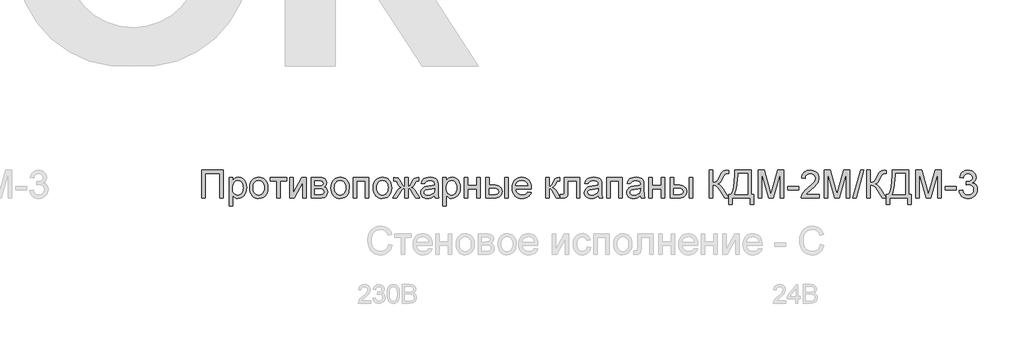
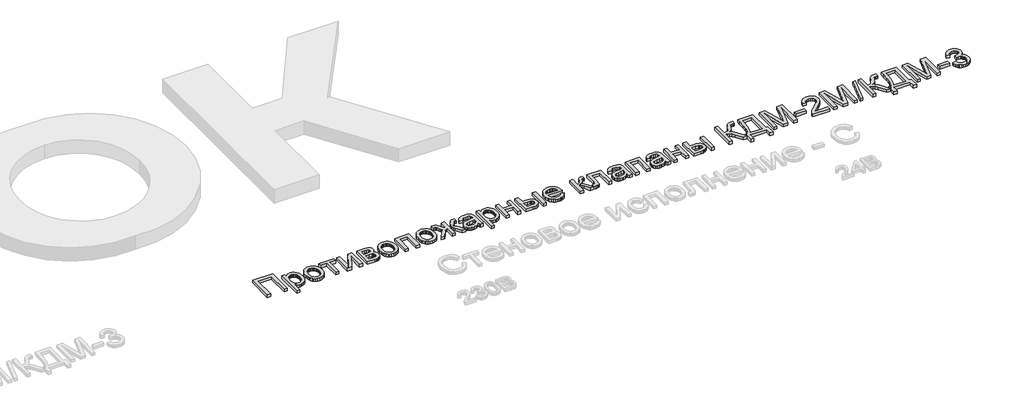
# One storey, part 22 of 23: 1 proxy.
"""IFC4 building model written with IfcOpenShell, lengths in millimetres."""

from ifc_helpers import new_model, si_unit, origin, origin_with_axes, place, context, project, spatial, polyline, outline, extrude, element, save

model = new_model("IFC4")

# Units and contexts
model_context = context("Model", 3, world=origin())
ifc_project = project(units=[si_unit("LENGTHUNIT", "METRE", prefix="MILLI")], contexts=[model_context])

# Site, building, storey
site = spatial("IfcSite", under=ifc_project)
building = spatial("IfcBuilding", under=site)
storey = spatial("IfcBuildingStorey", under=building, Name="Этаж 01", Elevation=0.0)

# Proxy
placement = place(None, origin())
element("IfcBuildingElementProxy", 1, Name="450 мм Arial", ObjectType="450 мм Arial", at=placement, inside=storey, context=model_context, shape_type="SweptSolid", body=[
    extrude(outline(polyline([(15947.7209967, -1162.9519857), (16299.0148583, -1162.9519857), (16299.0148583, -1612.6081285), (16242.8078404, -1612.6081285), (16242.8078404, -1219.1590035), (16003.9280146, -1219.1590035), (16003.9280146, -1612.6081285), (15947.7209967, -1612.6081285), (15947.7209967, -1162.9519857)])), origin_with_axes(), (0.0, 0.0, 1.0), 50.0),
    extrude(outline(polyline([(16390.3512623, -1739.0739187), (16390.3512623, -1282.3918986), (16446.5582802, -1282.3918986), (16446.5582802, -1337.5011231), (16464.8914286, -1310.3170161), (16485.4201636, -1290.8997968), (16509.3520579, -1279.2494652), (16537.8946842, -1275.3660214), (16575.9057778, -1280.8000983), (16609.1414705, -1297.1023291), (16636.2020757, -1323.2846997), (16655.6879071, -1358.3591962), (16667.4617405, -1399.7734491), (16671.3863516, -1444.9750889), (16666.954011, -1493.0447138), (16653.6569895, -1536.0370446), (16631.9206818, -1571.7702171), (16602.1704829, -1598.062367), (16567.5213813, -1614.241096), (16531.0883656, -1619.6340057), (16505.2490554, -1616.0250102), (16482.1816733, -1605.1980236), (16462.435116, -1588.8546256), (16446.5582802, -1568.6963958), (16446.5582802, -1739.0739187), (16390.3512623, -1739.0739187)]), holes=[polyline([(16446.5582802, -1450.1347175), (16448.0780378, -1477.2227676), (16452.6373106, -1500.5234308), (16460.2360988, -1520.036707), (16470.8744021, -1535.7625963), (16483.6808473, -1547.8657676), (16497.7840608, -1556.51089), (16513.1840427, -1561.6979634), (16529.8807929, -1563.4269879), (16546.8176855, -1561.6362125), (16562.4989769, -1556.2638865), (16576.9246672, -1547.3100097), (16590.0947564, -1534.7745823), (16601.069259, -1518.4792127), (16608.9081894, -1498.2455096), (16613.6115476, -1474.073473), (16615.1793337, -1445.9631029), (16613.6492843, -1419.1083339), (16609.059136, -1395.848838), (16601.4088888, -1376.1846152), (16590.6985427, -1360.1156655), (16577.8612221, -1347.6282665), (16563.8300513, -1338.7086958), (16548.6050302, -1333.3569534), (16532.1861589, -1331.5730392), (16515.8187467, -1333.4701633), (16500.4187648, -1339.1615355), (16485.9862133, -1348.6471559), (16472.5210921, -1361.9270245), (16461.1623619, -1378.8227497), (16453.0489831, -1399.1559403), (16448.1809559, -1422.9265963), (16446.5582802, -1450.1347175)])]), origin_with_axes(), (0.0, 0.0, 1.0), 50.0),
    extrude(outline(polyline([(16720.5674922, -1447.5000135), (16723.6070074, -1404.7341026), (16732.7255532, -1367.8825532), (16747.9231294, -1336.9453653), (16769.1997361, -1311.9225388), (16790.6204282, -1295.9290624), (16814.2641518, -1284.5051507), (16840.1309069, -1277.6508037), (16868.2206934, -1275.3660214), (16899.229924, -1278.1482413), (16927.2682514, -1286.4949011), (16952.3356757, -1300.4060008), (16974.4321968, -1319.8815404), (16992.4668827, -1344.2628439), (17005.3488011, -1372.8912352), (17013.0779522, -1405.7667145), (17015.6543359, -1442.8892816), (17011.0984936, -1499.672641), (17005.4036908, -1522.9801653), (16997.4309668, -1542.8982528), (16975.0497056, -1575.2694333), (16944.3526599, -1599.4894983), (16907.8921994, -1614.5978789), (16868.2206934, -1619.6340057), (16836.758623, -1616.8620776), (16808.4595697, -1608.5462932), (16783.3235333, -1594.6866526), (16761.3505139, -1575.2831557), (16743.5079419, -1550.6651405), (16730.7632476, -1521.1619451), (16723.116431, -1486.7735695), (16720.5674922, -1447.5000135)]), holes=[polyline([(16776.77451, -1447.3902342), (16778.4006164, -1474.6532451), (16783.2789354, -1498.2592321), (16791.4094672, -1518.208195), (16802.7922117, -1534.5001339), (16816.6381299, -1547.1556325), (16832.1581829, -1556.1952744), (16849.3523707, -1561.6190595), (16868.2206934, -1563.4269879), (16886.9929591, -1561.6087677), (16904.1185349, -1556.1541071), (16919.5974206, -1547.0630062), (16933.4296164, -1534.335465), (16944.8123609, -1517.8822876), (16952.9428926, -1497.6142785), (16957.8212117, -1473.5314376), (16959.4473181, -1445.6337649), (16957.8109199, -1419.2352662), (16952.9017254, -1396.246788), (16944.7197346, -1376.6683303), (16933.2649474, -1360.4998931), (16919.3812926, -1347.8443946), (16903.9126986, -1338.8047527), (16886.8591655, -1333.3809676), (16868.2206934, -1331.5730392), (16849.3523707, -1333.3741064), (16832.1581829, -1338.7773079), (16816.6381299, -1347.7826437), (16802.7922117, -1360.3901138), (16791.4094672, -1376.6340243), (16783.2789354, -1396.5486812), (16778.4006164, -1420.1340845), (16776.77451, -1447.3902342)])]), origin_with_axes(), (0.0, 0.0, 1.0), 50.0),
    extrude(outline(polyline([(17050.7837221, -1282.3918986), (17317.7670569, -1282.3918986), (17317.7670569, -1338.5989165), (17212.3788984, -1338.5989165), (17212.3788984, -1612.6081285), (17156.1718805, -1612.6081285), (17156.1718805, -1338.5989165), (17050.7837221, -1338.5989165), (17050.7837221, -1282.3918986)])), origin_with_axes(), (0.0, 0.0, 1.0), 50.0),
    extrude(outline(polyline([(17366.9481975, -1282.3918986), (17423.1552153, -1282.3918986), (17423.1552153, -1534.2256856), (17561.2576147, -1282.3918986), (17633.9315323, -1282.3918986), (17633.9315323, -1612.6081285), (17577.7245144, -1612.6081285), (17577.7245144, -1362.3112521), (17440.5003497, -1612.6081285), (17366.9481975, -1612.6081285), (17366.9481975, -1282.3918986)])), origin_with_axes(), (0.0, 0.0, 1.0), 50.0),
    extrude(outline(polyline([(17718.2420591, -1282.3918986), (17842.0731453, -1282.3918986), (17881.8818754, -1284.2718697), (17909.9716619, -1289.9117828), (17930.6376211, -1300.560378), (17948.1748694, -1317.4663951), (17960.154539, -1339.4908735), (17964.1477622, -1365.4948527), (17961.7326169, -1386.4489827), (17954.487181, -1404.5214052), (17942.3840096, -1419.7944547), (17925.3956581, -1432.3504658), (17946.1988414, -1444.0282422), (17963.1597482, -1462.8142303), (17974.4395745, -1487.2264092), (17978.1995166, -1515.7827579), (17975.0776669, -1538.7883891), (17968.6761596, -1558.6241421), (17958.9949948, -1575.2900169), (17946.0341724, -1588.7860135), (17929.7731089, -1599.2081888), (17910.1912206, -1606.6525997), (17887.2885075, -1611.1192463), (17861.0649697, -1612.6081285), (17718.2420591, -1612.6081285), (17718.2420591, -1282.3918986)]), holes=[polyline([(17774.4490769, -1556.4011106), (17843.3904972, -1556.4011106), (17880.9624735, -1553.8624636), (17904.537585, -1546.2465224), (17917.189653, -1532.4006042), (17921.9924988, -1511.172026), (17919.5910759, -1497.1065491), (17912.3868072, -1484.1114207), (17901.3265396, -1473.9431101), (17887.3571196, -1468.3580866), (17837.9015307, -1465.0647066), (17774.4490769, -1465.0647066), (17774.4490769, -1556.4011106)]), polyline([(17774.4490769, -1408.8576888), (17829.9974188, -1408.8576888), (17875.8302898, -1406.0034261), (17898.1154941, -1394.5863756), (17905.4844318, -1385.1453531), (17907.9407443, -1373.9478613), (17903.6319055, -1357.1790684), (17890.7053892, -1346.393249), (17867.3498364, -1340.5474996), (17831.7538881, -1338.5989165), (17774.4490769, -1338.5989165), (17774.4490769, -1408.8576888)])]), origin_with_axes(), (0.0, 0.0, 1.0), 50.0),
    extrude(outline(polyline([(18034.4065345, -1447.5000135), (18037.4460497, -1404.7341026), (18046.5645955, -1367.8825532), (18061.7621717, -1336.9453653), (18083.0387784, -1311.9225388), (18104.4594705, -1295.9290624), (18128.1031941, -1284.5051507), (18153.9699492, -1277.6508037), (18182.0597357, -1275.3660214), (18213.0689663, -1278.1482413), (18241.1072937, -1286.4949011), (18266.174718, -1300.4060008), (18288.2712391, -1319.8815404), (18306.305925, -1344.2628439), (18319.1878434, -1372.8912352), (18326.9169945, -1405.7667145), (18329.4933782, -1442.8892816), (18324.9375359, -1499.672641), (18319.2427331, -1522.9801653), (18311.2700091, -1542.8982528), (18288.8887479, -1575.2694333), (18258.1917022, -1599.4894983), (18221.7312417, -1614.5978789), (18182.0597357, -1619.6340057), (18150.5976653, -1616.8620776), (18122.298612, -1608.5462932), (18097.1625756, -1594.6866526), (18075.1895562, -1575.2831557), (18057.3469842, -1550.6651405), (18044.6022899, -1521.1619451), (18036.9554733, -1486.7735695), (18034.4065345, -1447.5000135)]), holes=[polyline([(18090.6135523, -1447.3902342), (18092.2396587, -1474.6532451), (18097.1179777, -1498.2592321), (18105.2485095, -1518.208195), (18116.631254, -1534.5001339), (18130.4771722, -1547.1556325), (18145.9972252, -1556.1952744), (18163.191413, -1561.6190595), (18182.0597357, -1563.4269879), (18200.8320014, -1561.6087677), (18217.9575771, -1556.1541071), (18233.4364629, -1547.0630062), (18247.2686587, -1534.335465), (18258.6514032, -1517.8822876), (18266.7819349, -1497.6142785), (18271.660254, -1473.5314376), (18273.2863603, -1445.6337649), (18271.6499622, -1419.2352662), (18266.7407677, -1396.246788), (18258.5587769, -1376.6683303), (18247.1039897, -1360.4998931), (18233.2203349, -1347.8443946), (18217.7517409, -1338.8047527), (18200.6982078, -1333.3809676), (18182.0597357, -1331.5730392), (18163.191413, -1333.3741064), (18145.9972252, -1338.7773079), (18130.4771722, -1347.7826437), (18116.631254, -1360.3901138), (18105.2485095, -1376.6340243), (18097.1179777, -1396.5486812), (18092.2396587, -1420.1340845), (18090.6135523, -1447.3902342)])]), origin_with_axes(), (0.0, 0.0, 1.0), 50.0),
    extrude(outline(polyline([(18392.7262733, -1282.3918986), (18645.6578536, -1282.3918986), (18645.6578536, -1612.6081285), (18589.4508358, -1612.6081285), (18589.4508358, -1338.5989165), (18448.9332911, -1338.5989165), (18448.9332911, -1612.6081285), (18392.7262733, -1612.6081285), (18392.7262733, -1282.3918986)])), origin_with_axes(), (0.0, 0.0, 1.0), 50.0),
    extrude(outline(polyline([(18715.9166259, -1447.5000135), (18718.9561412, -1404.7341026), (18728.0746869, -1367.8825532), (18743.2722632, -1336.9453653), (18764.5488699, -1311.9225388), (18785.969562, -1295.9290624), (18809.6132856, -1284.5051507), (18835.4800406, -1277.6508037), (18863.5698271, -1275.3660214), (18894.5790577, -1278.1482413), (18922.6173852, -1286.4949011), (18947.6848095, -1300.4060008), (18969.7813306, -1319.8815404), (18987.8160164, -1344.2628439), (19000.6979349, -1372.8912352), (19008.427086, -1405.7667145), (19011.0034697, -1442.8892816), (19006.4476274, -1499.672641), (19000.7528246, -1522.9801653), (18992.7801006, -1542.8982528), (18970.3988393, -1575.2694333), (18939.7017937, -1599.4894983), (18903.2413331, -1614.5978789), (18863.5698271, -1619.6340057), (18832.1077568, -1616.8620776), (18803.8087034, -1608.5462932), (18778.672667, -1594.6866526), (18756.6996477, -1575.2831557), (18738.8570757, -1550.6651405), (18726.1123814, -1521.1619451), (18718.4655648, -1486.7735695), (18715.9166259, -1447.5000135)]), holes=[polyline([(18772.1236438, -1447.3902342), (18773.7497501, -1474.6532451), (18778.6280692, -1498.2592321), (18786.7586009, -1518.208195), (18798.1413454, -1534.5001339), (18811.9872636, -1547.1556325), (18827.5073166, -1556.1952744), (18844.7015045, -1561.6190595), (18863.5698271, -1563.4269879), (18882.3420929, -1561.6087677), (18899.4676686, -1556.1541071), (18914.9465544, -1547.0630062), (18928.7787502, -1534.335465), (18940.1614946, -1517.8822876), (18948.2920264, -1497.6142785), (18953.1703455, -1473.5314376), (18954.7964518, -1445.6337649), (18953.1600536, -1419.2352662), (18948.2508591, -1396.246788), (18940.0688683, -1376.6683303), (18928.6140812, -1360.4998931), (18914.7304263, -1347.8443946), (18899.2618324, -1338.8047527), (18882.2082993, -1333.3809676), (18863.5698271, -1331.5730392), (18844.7015045, -1333.3741064), (18827.5073166, -1338.7773079), (18811.9872636, -1347.7826437), (18798.1413454, -1360.3901138), (18786.7586009, -1376.6340243), (18778.6280692, -1396.5486812), (18773.7497501, -1420.1340845), (18772.1236438, -1447.3902342)])]), origin_with_axes(), (0.0, 0.0, 1.0), 50.0),
    extrude(outline(polyline([(19277.9868045, -1282.3918986), (19277.9868045, -1422.9094432), (19297.8156963, -1420.0140134), (19310.755935, -1411.3277237), (19341.7685962, -1351.2235396), (19361.1172034, -1313.7613426), (19378.764231, -1293.5893904), (19400.1986455, -1285.1912716), (19431.3485309, -1282.3918986), (19453.6337352, -1282.3918986), (19453.6337352, -1338.9282545), (19438.1548495, -1338.5989165), (19419.6021424, -1340.0534926), (19409.1731059, -1344.417221), (19389.0834882, -1380.8639592), (19376.9391496, -1405.2898605), (19365.7553802, -1420.8236359), (19352.074131, -1431.4447863), (19332.437353, -1441.1328123), (19350.9283092, -1449.0437854), (19369.1859843, -1463.0063442), (19387.2103783, -1483.0204886), (19405.0014913, -1509.0862187), (19467.6854897, -1612.6081285), (19403.245022, -1612.6081285), (19341.5490375, -1510.51335), (19324.6841877, -1483.7134706), (19310.097259, -1468.0836382), (19295.3456613, -1460.5500316), (19277.9868045, -1458.0388294), (19277.9868045, -1612.6081285), (19221.7797866, -1612.6081285), (19221.7797866, -1458.0388294), (19204.5581539, -1460.4951419), (19189.7791114, -1467.8640796), (19175.0824034, -1483.3841326), (19158.1077742, -1510.2937913), (19096.4117898, -1612.6081285), (19032.0811014, -1612.6081285), (19094.5455411, -1509.0862187), (19112.4876006, -1483.0204886), (19130.6354964, -1463.0063442), (19148.9892284, -1449.0437854), (19167.5487967, -1441.1328123), (19146.0869374, -1430.3744378), (19132.1998519, -1418.7378286), (19119.5752287, -1398.2914281), (19101.9007563, -1361.1036795), (19094.7376549, -1348.7260598), (19087.0805466, -1342.1118551), (19062.8193142, -1338.2695785), (19046.1328558, -1338.5989165), (19046.1328558, -1282.3918986), (19054.5858644, -1282.3918986), (19103.8767843, -1285.9048372), (19117.4070869, -1291.3938038), (19129.4553686, -1300.8348263), (19142.2721056, -1319.1405299), (19158.1077742, -1351.2235396), (19188.7910974, -1410.9434961), (19201.7313361, -1419.9179564), (19221.7797866, -1422.9094432), (19221.7797866, -1282.3918986), (19277.9868045, -1282.3918986)])), origin_with_axes(), (0.0, 0.0, 1.0), 50.0),
    extrude(outline(polyline([(19706.5653156, -1570.4528651), (19679.7105465, -1593.4790799), (19652.0598774, -1608.5462932), (19622.9820769, -1616.8620776), (19591.8459139, -1619.6340057), (19566.8196569, -1617.9667321), (19544.8740823, -1612.9649113), (19526.0091903, -1604.6285433), (19510.2249808, -1592.9576281), (19497.761596, -1578.6931762), (19488.8591783, -1562.576198), (19483.5177277, -1544.6066937), (19481.7372442, -1524.7846631), (19484.4268378, -1501.4839999), (19492.4956187, -1480.3240337), (19504.9418504, -1462.210444), (19520.7637966, -1448.0489102), (19539.3576709, -1437.3454254), (19560.119687, -1429.6059825), (19608.751931, -1421.1529739), (19666.2214112, -1412.2608481), (19706.2359776, -1401.8318115), (19706.5653156, -1389.3169677), (19702.6955941, -1364.2323904), (19691.0864298, -1347.8203803), (19665.1236178, -1335.6348745), (19628.951328, -1331.5730392), (19595.4686319, -1334.2763553), (19572.0856342, -1342.3863034), (19556.1401863, -1357.3849046), (19544.9701393, -1380.7541798), (19488.7631214, -1373.7283026), (19498.5197595, -1342.9900897), (19513.0792434, -1318.8386367), (19533.8000922, -1300.3682642), (19562.0408253, -1286.6732925), (19596.5801476, -1278.1928392), (19636.1967639, -1275.3660214), (19674.1941351, -1277.8635012), (19704.3148393, -1285.3559406), (19727.0254385, -1296.6220445), (19742.7924951, -1310.4405179), (19753.2489764, -1327.5249264), (19760.0278501, -1348.5888356), (19762.7723334, -1397.7699763), (19762.7723334, -1467.6994106), (19765.6265961, -1565.3481262), (19776.8240879, -1612.6081285), (19720.61707, -1612.6081285), (19711.6151648, -1593.0674074), (19706.5653156, -1570.4528651)]), holes=[polyline([(19706.5653156, -1458.0388294), (19668.8012255, -1467.3975174), (19615.8875876, -1475.2741845), (19567.5297919, -1484.385869), (19554.946336, -1490.6158461), (19545.6288152, -1499.2060788), (19539.8654003, -1509.4978911), (19537.944262, -1520.8326071), (19542.129599, -1537.5465104), (19554.6856101, -1551.241482), (19575.3378469, -1560.3806114), (19603.8118611, -1563.4269879), (19634.0011773, -1560.0649958), (19660.6775549, -1549.9790197), (19682.3040833, -1535.1176427), (19697.3438517, -1517.4294479), (19704.0129461, -1499.2060788), (19706.2359776, -1473.9568325), (19706.5653156, -1458.0388294)])]), origin_with_axes(), (0.0, 0.0, 1.0), 50.0),
    extrude(outline(polyline([(19840.056983, -1739.0739187), (19840.056983, -1282.3918986), (19896.2640008, -1282.3918986), (19896.2640008, -1337.5011231), (19914.5971492, -1310.3170161), (19935.1258843, -1290.8997968), (19959.0577786, -1279.2494652), (19987.6004048, -1275.3660214), (20025.6114985, -1280.8000983), (20058.8471911, -1297.1023291), (20085.9077964, -1323.2846997), (20105.3936278, -1358.3591962), (20117.1674611, -1399.7734491), (20121.0920722, -1444.9750889), (20116.6597317, -1493.0447138), (20103.3627102, -1536.0370446), (20081.6264025, -1571.7702171), (20051.8762036, -1598.062367), (20017.227102, -1614.241096), (19980.7940863, -1619.6340057), (19954.9547761, -1616.0250102), (19931.887394, -1605.1980236), (19912.1408367, -1588.8546256), (19896.2640008, -1568.6963958), (19896.2640008, -1739.0739187), (19840.056983, -1739.0739187)]), holes=[polyline([(19896.2640008, -1450.1347175), (19897.7837585, -1477.2227676), (19902.3430313, -1500.5234308), (19909.9418194, -1520.036707), (19920.5801228, -1535.7625963), (19933.386568, -1547.8657676), (19947.4897815, -1556.51089), (19962.8897634, -1561.6979634), (19979.5865136, -1563.4269879), (19996.5234061, -1561.6362125), (20012.2046976, -1556.2638865), (20026.6303879, -1547.3100097), (20039.8004771, -1534.7745823), (20050.7749797, -1518.4792127), (20058.6139101, -1498.2455096), (20063.3172683, -1474.073473), (20064.8850544, -1445.9631029), (20063.3550049, -1419.1083339), (20058.7648566, -1395.848838), (20051.1146095, -1376.1846152), (20040.4042634, -1360.1156655), (20027.5669428, -1347.6282665), (20013.535772, -1338.7086958), (19998.3107509, -1333.3569534), (19981.8918796, -1331.5730392), (19965.5244673, -1333.4701633), (19950.1244855, -1339.1615355), (19935.6919339, -1348.6471559), (19922.2268128, -1361.9270245), (19910.8680826, -1378.8227497), (19902.7547038, -1399.1559403), (19897.8866766, -1422.9265963), (19896.2640008, -1450.1347175)])]), origin_with_axes(), (0.0, 0.0, 1.0), 50.0),
    extrude(outline(polyline([(20184.3249673, -1282.3918986), (20240.5319852, -1282.3918986), (20240.5319852, -1408.8576888), (20388.075407, -1408.8576888), (20388.075407, -1282.3918986), (20444.2824249, -1282.3918986), (20444.2824249, -1612.6081285), (20388.075407, -1612.6081285), (20388.075407, -1465.0647066), (20240.5319852, -1465.0647066), (20240.5319852, -1612.6081285), (20184.3249673, -1612.6081285), (20184.3249673, -1282.3918986)])), origin_with_axes(), (0.0, 0.0, 1.0), 50.0),
    extrude(outline(polyline([(20528.5929517, -1282.3918986), (20584.7999695, -1282.3918986), (20584.7999695, -1401.8318115), (20654.2902865, -1401.8318115), (20686.2669475, -1403.5917115), (20714.3533034, -1408.8714112), (20738.5493542, -1417.6709107), (20758.8551, -1429.9902101), (20774.9206191, -1445.4039144), (20786.3959898, -1463.4866287), (20793.2812123, -1484.238353), (20795.5762865, -1507.6590873), (20793.6517176, -1528.554897), (20787.8780108, -1547.87949), (20778.2551663, -1565.6328663), (20764.7831839, -1581.8150259), (20747.0846973, -1595.2870083), (20724.7823399, -1604.9098528), (20697.8761118, -1610.6835596), (20666.366013, -1612.6081285), (20528.5929517, -1612.6081285), (20528.5929517, -1282.3918986)]), holes=[polyline([(20584.7999695, -1556.4011106), (20642.543898, -1556.4011106), (20687.3064205, -1553.4507911), (20717.0840643, -1544.5998325), (20733.7979675, -1529.4914519), (20739.3692686, -1507.7688667), (20735.2388213, -1489.4082734), (20722.8474792, -1473.1883772), (20712.0925353, -1466.56045), (20696.349493, -1461.8262163), (20649.8991132, -1458.0388294), (20584.7999695, -1458.0388294), (20584.7999695, -1556.4011106)])]), origin_with_axes(), (0.0, 0.0, 1.0), 50.0),
    extrude(outline(polyline([(20837.7315499, -1282.3918986), (20893.9385677, -1282.3918986), (20893.9385677, -1612.6081285), (20837.7315499, -1612.6081285), (20837.7315499, -1282.3918986)])), origin_with_axes(), (0.0, 0.0, 1.0), 50.0),
    extrude(outline(polyline([(21209.4443671, -1514.2458472), (21264.5535917, -1521.2717245), (21256.1040137, -1543.3442314), (21244.697255, -1562.7957567), (21230.3333156, -1579.6263005), (21213.0121954, -1593.8358628), (21192.9122859, -1605.1225503), (21170.2119785, -1613.18447), (21144.9112731, -1618.0216218), (21117.0101698, -1619.6340057), (21082.1346484, -1616.8517858), (21051.0602363, -1608.505126), (21023.7869335, -1594.5940263), (21000.3147402, -1575.1184867), (20981.4395563, -1550.6205427), (20967.9572821, -1521.6422297), (20959.8679176, -1488.1835478), (20957.1714628, -1450.2444968), (20959.8953625, -1411.0189694), (20968.0670615, -1376.4453411), (20981.6865598, -1346.523612), (21000.7538575, -1321.253782), (21024.1643, -1301.1778867), (21050.8132328, -1286.8379615), (21080.7006558, -1278.2340064), (21113.8265692, -1275.3660214), (21145.8855647, -1278.2271452), (21174.8776001, -1286.8105167), (21200.8026754, -1301.1161359), (21223.6607906, -1321.1440027), (21242.3198464, -1346.358943), (21255.6477434, -1376.2257824), (21263.6444816, -1410.744521), (21266.310061, -1449.9151588), (21265.980723, -1465.0647066), (21013.3784806, -1465.0647066), (21016.6341239, -1487.4939963), (21023.1076739, -1507.1376355), (21032.7991305, -1523.9956241), (21045.7084938, -1538.0679622), (21061.1221981, -1549.1625359), (21078.3266778, -1557.0872315), (21097.3219328, -1561.8420488), (21118.1079631, -1563.4269879), (21148.022831, -1560.4903907), (21173.2171877, -1551.6805994), (21193.691033, -1536.4487171), (21209.4443671, -1514.2458472)]), holes=[polyline([(21013.3784806, -1408.8576888), (21210.1030431, -1408.8576888), (21202.5008244, -1379.1623795), (21187.5982801, -1357.9200788), (21172.2703409, -1346.393249), (21154.8291496, -1338.1597991), (21135.2747061, -1333.2197292), (21113.6070105, -1331.5730392), (21075.7194187, -1336.8287247), (21044.3911419, -1352.5957813), (21031.9346183, -1363.9956787), (21022.6136669, -1377.1726291), (21016.4282877, -1392.1266325), (21013.3784806, -1408.8576888)])]), origin_with_axes(), (0.0, 0.0, 1.0), 50.0),
    extrude(outline(polyline([(21800.2767306, -1282.3918986), (22053.2083109, -1282.3918986), (22053.2083109, -1612.2787905), (21997.0012931, -1612.2787905), (21997.0012931, -1338.5989165), (21856.4837484, -1338.5989165), (21856.4837484, -1496.1322575), (21852.6963615, -1568.8061751), (21845.6018722, -1585.2593525), (21831.8931781, -1599.4894983), (21811.0899947, -1609.3284709), (21782.7120375, -1612.6081285), (21737.0438355, -1609.7538659), (21737.0438355, -1556.4011106), (21762.1833025, -1556.4011106), (21787.5972178, -1552.9430617), (21793.9506966, -1548.4695539), (21797.7518059, -1541.9651285), (21800.2767306, -1492.9486569), (21800.2767306, -1282.3918986)])), origin_with_axes(), (0.0, 0.0, 1.0), 50.0),
    extrude(outline(polyline([(21498.1640096, -1282.3918986), (21554.3710275, -1282.3918986), (21554.3710275, -1422.9094432), (21577.2325733, -1420.3845186), (21592.0253383, -1412.8097447), (21605.1165236, -1393.049465), (21622.8733305, -1353.9680229), (21637.1858109, -1322.0085149), (21648.5068044, -1303.195082), (21659.0730651, -1292.9444369), (21671.1213468, -1286.6732925), (21712.2337065, -1282.3918986), (21722.992081, -1282.3918986), (21722.992081, -1338.9282545), (21707.8425332, -1338.5989165), (21690.2778402, -1340.0809374), (21680.3977003, -1344.5270004), (21661.0765379, -1381.5226352), (21649.2066477, -1406.1818176), (21638.4071059, -1421.5372016), (21625.329643, -1431.7878467), (21606.6259894, -1441.1328123), (21624.437686, -1449.0437854), (21642.0847135, -1463.0063442), (21659.5670721, -1483.0204886), (21676.8847617, -1509.0862187), (21737.0438355, -1612.6081285), (21673.1522644, -1612.6081285), (21614.2007633, -1511.2818053), (21598.2827602, -1484.3172569), (21584.5603437, -1468.4129762), (21570.7007031, -1460.6323661), (21554.3710275, -1458.0388294), (21554.3710275, -1612.6081285), (21498.1640096, -1612.6081285), (21498.1640096, -1282.3918986)])), origin_with_axes(), (0.0, 0.0, 1.0), 50.0),
    extrude(outline(polyline([(22348.2951546, -1570.4528651), (22321.4403856, -1593.4790799), (22293.7897164, -1608.5462932), (22264.7119159, -1616.8620776), (22233.575753, -1619.6340057), (22208.5494959, -1617.9667321), (22186.6039214, -1612.9649113), (22167.7390294, -1604.6285433), (22151.9548198, -1592.9576281), (22139.4914351, -1578.6931762), (22130.5890174, -1562.576198), (22125.2475668, -1544.6066937), (22123.4670832, -1524.7846631), (22126.1566768, -1501.4839999), (22134.2254577, -1480.3240337), (22146.6716895, -1462.210444), (22162.4936357, -1448.0489102), (22181.08751, -1437.3454254), (22201.8495261, -1429.6059825), (22250.48177, -1421.1529739), (22307.9512502, -1412.2608481), (22347.9658166, -1401.8318115), (22348.2951546, -1389.3169677), (22344.4254332, -1364.2323904), (22332.8162689, -1347.8203803), (22306.8534569, -1335.6348745), (22270.6811671, -1331.5730392), (22237.1984709, -1334.2763553), (22213.8154732, -1342.3863034), (22197.8700253, -1357.3849046), (22186.6999783, -1380.7541798), (22130.4929605, -1373.7283026), (22140.2495986, -1342.9900897), (22154.8090824, -1318.8386367), (22175.5299313, -1300.3682642), (22203.7706644, -1286.6732925), (22238.3099866, -1278.1928392), (22277.926603, -1275.3660214), (22315.9239742, -1277.8635012), (22346.0446783, -1285.3559406), (22368.7552776, -1296.6220445), (22384.5223341, -1310.4405179), (22394.9788155, -1327.5249264), (22401.7576892, -1348.5888356), (22404.5021725, -1397.7699763), (22404.5021725, -1467.6994106), (22407.3564351, -1565.3481262), (22418.5539269, -1612.6081285), (22362.3469091, -1612.6081285), (22353.3450039, -1593.0674074), (22348.2951546, -1570.4528651)]), holes=[polyline([(22348.2951546, -1458.0388294), (22310.5310645, -1467.3975174), (22257.6174266, -1475.2741845), (22209.259631, -1484.385869), (22196.6761751, -1490.6158461), (22187.3586543, -1499.2060788), (22181.5952394, -1509.4978911), (22179.6741011, -1520.8326071), (22183.8594381, -1537.5465104), (22196.4154492, -1551.241482), (22217.0676859, -1560.3806114), (22245.5417001, -1563.4269879), (22275.7310163, -1560.0649958), (22302.407394, -1549.9790197), (22324.0339223, -1535.1176427), (22339.0736908, -1517.4294479), (22345.7427852, -1499.2060788), (22347.9658166, -1473.9568325), (22348.2951546, -1458.0388294)])]), origin_with_axes(), (0.0, 0.0, 1.0), 50.0),
    extrude(outline(polyline([(22481.786822, -1282.3918986), (22734.7184024, -1282.3918986), (22734.7184024, -1612.6081285), (22678.5113845, -1612.6081285), (22678.5113845, -1338.5989165), (22537.9938399, -1338.5989165), (22537.9938399, -1612.6081285), (22481.786822, -1612.6081285), (22481.786822, -1282.3918986)])), origin_with_axes(), (0.0, 0.0, 1.0), 50.0),
    extrude(outline(polyline([(23029.8052461, -1570.4528651), (23002.9504771, -1593.4790799), (22975.2998079, -1608.5462932), (22946.2220074, -1616.8620776), (22915.0858444, -1619.6340057), (22890.0595874, -1617.9667321), (22868.1140128, -1612.9649113), (22849.2491208, -1604.6285433), (22833.4649113, -1592.9576281), (22821.0015265, -1578.6931762), (22812.0991088, -1562.576198), (22806.7576582, -1544.6066937), (22804.9771747, -1524.7846631), (22807.6667683, -1501.4839999), (22815.7355492, -1480.3240337), (22828.1817809, -1462.210444), (22844.0037271, -1448.0489102), (22862.5976014, -1437.3454254), (22883.3596175, -1429.6059825), (22931.9918615, -1421.1529739), (22989.4613417, -1412.2608481), (23029.4759081, -1401.8318115), (23029.8052461, -1389.3169677), (23025.9355246, -1364.2323904), (23014.3263603, -1347.8203803), (22988.3635484, -1335.6348745), (22952.1912585, -1331.5730392), (22918.7085624, -1334.2763553), (22895.3255647, -1342.3863034), (22879.3801168, -1357.3849046), (22868.2100698, -1380.7541798), (22812.0030519, -1373.7283026), (22821.75969, -1342.9900897), (22836.3191739, -1318.8386367), (22857.0400228, -1300.3682642), (22885.2807558, -1286.6732925), (22919.8200781, -1278.1928392), (22959.4366944, -1275.3660214), (22997.4340656, -1277.8635012), (23027.5547698, -1285.3559406), (23050.265369, -1296.6220445), (23066.0324256, -1310.4405179), (23076.4889069, -1327.5249264), (23083.2677806, -1348.5888356), (23086.0122639, -1397.7699763), (23086.0122639, -1467.6994106), (23088.8665266, -1565.3481262), (23100.0640184, -1612.6081285), (23043.8570006, -1612.6081285), (23034.8550953, -1593.0674074), (23029.8052461, -1570.4528651)]), holes=[polyline([(23029.8052461, -1458.0388294), (22992.041156, -1467.3975174), (22939.1275181, -1475.2741845), (22890.7697224, -1484.385869), (22878.1862665, -1490.6158461), (22868.8687458, -1499.2060788), (22863.1053308, -1509.4978911), (22861.1841925, -1520.8326071), (22865.3695296, -1537.5465104), (22877.9255406, -1551.241482), (22898.5777774, -1560.3806114), (22927.0517916, -1563.4269879), (22957.2411078, -1560.0649958), (22983.9174854, -1549.9790197), (23005.5440138, -1535.1176427), (23020.5837822, -1517.4294479), (23027.2528766, -1499.2060788), (23029.4759081, -1473.9568325), (23029.8052461, -1458.0388294)])]), origin_with_axes(), (0.0, 0.0, 1.0), 50.0),
    extrude(outline(polyline([(23163.2969135, -1282.3918986), (23219.5039313, -1282.3918986), (23219.5039313, -1408.8576888), (23367.0473532, -1408.8576888), (23367.0473532, -1282.3918986), (23423.2543711, -1282.3918986), (23423.2543711, -1612.6081285), (23367.0473532, -1612.6081285), (23367.0473532, -1465.0647066), (23219.5039313, -1465.0647066), (23219.5039313, -1612.6081285), (23163.2969135, -1612.6081285), (23163.2969135, -1282.3918986)])), origin_with_axes(), (0.0, 0.0, 1.0), 50.0),
    extrude(outline(polyline([(23507.5648978, -1282.3918986), (23563.7719157, -1282.3918986), (23563.7719157, -1401.8318115), (23633.2622327, -1401.8318115), (23665.2388936, -1403.5917115), (23693.3252496, -1408.8714112), (23717.5213004, -1417.6709107), (23737.8270462, -1429.9902101), (23753.8925652, -1445.4039144), (23765.367936, -1463.4866287), (23772.2531585, -1484.238353), (23774.5482326, -1507.6590873), (23772.6236637, -1528.554897), (23766.849957, -1547.87949), (23757.2271124, -1565.6328663), (23743.7551301, -1581.8150259), (23726.0566434, -1595.2870083), (23703.7542861, -1604.9098528), (23676.848058, -1610.6835596), (23645.3379592, -1612.6081285), (23507.5648978, -1612.6081285), (23507.5648978, -1282.3918986)]), holes=[polyline([(23563.7719157, -1556.4011106), (23621.5158442, -1556.4011106), (23666.2783667, -1553.4507911), (23696.0560104, -1544.5998325), (23712.7699137, -1529.4914519), (23718.3412148, -1507.7688667), (23714.2107674, -1489.4082734), (23701.8194253, -1473.1883772), (23691.0644814, -1466.56045), (23675.3214391, -1461.8262163), (23628.8710594, -1458.0388294), (23563.7719157, -1458.0388294), (23563.7719157, -1556.4011106)])]), origin_with_axes(), (0.0, 0.0, 1.0), 50.0),
    extrude(outline(polyline([(23816.703496, -1282.3918986), (23872.9105139, -1282.3918986), (23872.9105139, -1612.6081285), (23816.703496, -1612.6081285), (23816.703496, -1282.3918986)])), origin_with_axes(), (0.0, 0.0, 1.0), 50.0),
    extrude(outline(polyline([(24547.3947281, -1162.9519857), (24814.3780629, -1162.9519857), (24814.3780629, -1556.4011106), (24856.5333263, -1556.4011106), (24856.5333263, -1717.996287), (24800.3263084, -1717.996287), (24800.3263084, -1612.6081285), (24512.2653419, -1612.6081285), (24512.2653419, -1717.996287), (24456.0583241, -1717.996287), (24456.0583241, -1612.6081285), (24456.0583241, -1556.4011106), (24491.1877102, -1556.4011106), (24504.3612301, -1533.5001128), (24515.7782806, -1505.4154722), (24533.3429736, -1433.6952626), (24543.8817895, -1341.2404816), (24547.3947281, -1228.0511294), (24547.3947281, -1162.9519857)]), holes=[polyline([(24758.171045, -1219.1590035), (24603.6017459, -1219.1590035), (24603.6017459, -1241.7735459), (24600.7474833, -1308.4370451), (24592.1846954, -1395.7939483), (24585.1039285, -1442.4707479), (24575.2786784, -1484.7975415), (24562.7089449, -1522.7743291), (24547.3947281, -1556.4011106), (24758.171045, -1556.4011106), (24758.171045, -1219.1590035)])]), origin_with_axes(), (0.0, 0.0, 1.0), 50.0),
    extrude(outline(polyline([(24139.8938487, -1162.9519857), (24196.1008665, -1162.9519857), (24196.1008665, -1359.6765481), (24234.1531274, -1355.9577733), (24258.9495339, -1344.8014487), (24278.9979844, -1318.550466), (24302.806377, -1269.5477168), (24333.8190382, -1206.6990494), (24348.7764721, -1189.6695305), (24368.9484243, -1175.5766088), (24392.8940411, -1166.1081415), (24419.1724686, -1162.9519857), (24456.0583241, -1163.6106617), (24456.0583241, -1219.8176795), (24443.6532596, -1219.4883415), (24431.2481951, -1219.1590035), (24405.5049418, -1222.534718), (24387.3364624, -1232.6618613), (24371.6929076, -1253.9316068), (24353.9635456, -1290.5155692), (24332.2135155, -1336.0739918), (24314.1685378, -1360.9939001), (24296.3705637, -1374.1125303), (24275.361544, -1384.2671185), (24297.1321578, -1393.5297496), (24318.7518249, -1409.6810338), (24340.2205455, -1432.720971), (24361.5383195, -1462.6495613), (24456.0583241, -1612.6081285), (24390.849401, -1612.6081285), (24310.9300475, -1485.9227797), (24280.0683329, -1445.2907045), (24254.66814, -1419.7807323), (24228.6916056, -1406.3190417), (24196.1008665, -1401.8318115), (24196.1008665, -1612.6081285), (24139.8938487, -1612.6081285), (24139.8938487, -1162.9519857)])), origin_with_axes(), (0.0, 0.0, 1.0), 50.0),
    extrude(outline(polyline([(24926.7920986, -1612.6081285), (24926.7920986, -1162.9519857), (25023.5076899, -1162.9519857), (25115.5027699, -1479.8849164), (25134.0554769, -1546.0818534), (25154.1450946, -1474.3959498), (25244.603264, -1162.9519857), (25341.3188553, -1162.9519857), (25341.3188553, -1612.6081285), (25285.1118374, -1612.6081285), (25285.1118374, -1219.1590035), (25172.148905, -1612.6081285), (25095.9620488, -1612.6081285), (24982.9991165, -1219.1590035), (24982.9991165, -1612.6081285), (24926.7920986, -1612.6081285)])), origin_with_axes(), (0.0, 0.0, 1.0), 50.0),
    extrude(outline(polyline([(25404.5517503, -1479.1164611), (25404.5517503, -1422.9094432), (25580.1986811, -1422.9094432), (25580.1986811, -1479.1164611), (25404.5517503, -1479.1164611)])), origin_with_axes(), (0.0, 0.0, 1.0), 50.0),
    extrude(outline(polyline([(25917.4407882, -1556.4011106), (25917.4407882, -1612.6081285), (25622.3539445, -1612.6081285), (25623.588962, -1592.8204039), (25628.3918078, -1573.8560244), (25642.2514484, -1543.5706512), (25662.5331799, -1514.1909576), (25691.8717063, -1483.4390223), (25732.9017316, -1449.0369242), (25793.5548124, -1395.1627171), (25829.9466608, -1355.3951542), (25848.1425851, -1323.1200307), (25854.2078932, -1291.7231418), (25848.4856455, -1263.5784656), (25831.3189025, -1240.1817455), (25804.9306956, -1224.414689), (25771.5440564, -1219.1590035), (25736.4832823, -1224.2911873), (25721.8860618, -1230.706417), (25709.2442856, -1239.6877386), (25699.0176547, -1250.9332589), (25691.6658701, -1264.1410847), (25687.1889317, -1279.3112161), (25685.5868396, -1296.4436531), (25629.3798218, -1289.4177758), (25634.213543, -1260.4017262), (25643.0061813, -1235.0495618), (25655.7577368, -1213.3612826), (25672.4682095, -1195.3368885), (25692.7533716, -1181.1684935), (25716.2289956, -1171.0482114), (25742.8950814, -1164.9760421), (25772.751629, -1162.9519857), (25802.8757638, -1165.202462), (25829.6859349, -1171.9538909), (25853.1821425, -1183.2062724), (25873.3643865, -1198.9596065), (25889.573991, -1218.0474878), (25901.1522799, -1239.3035109), (25908.0992532, -1262.7276758), (25910.414911, -1288.3199825), (25907.9174312, -1315.2021964), (25900.4249918, -1341.6178481), (25887.1279703, -1368.4863395), (25867.216744, -1396.7270726), (25835.4767947, -1430.4430499), (25786.6936041, -1473.7372738), (25722.0335777, -1527.8035947), (25696.6745521, -1556.4011106), (25917.4407882, -1556.4011106)])), origin_with_axes(), (0.0, 0.0, 1.0), 50.0),
    extrude(outline(polyline([(25994.7254378, -1612.6081285), (25994.7254378, -1162.9519857), (26091.4410291, -1162.9519857), (26183.4361091, -1479.8849164), (26201.9888161, -1546.0818534), (26222.0784338, -1474.3959498), (26312.5366032, -1162.9519857), (26409.2521944, -1162.9519857), (26409.2521944, -1612.6081285), (26353.0451766, -1612.6081285), (26353.0451766, -1219.1590035), (26240.0822442, -1612.6081285), (26163.895388, -1612.6081285), (26050.9324556, -1219.1590035), (26050.9324556, -1612.6081285), (25994.7254378, -1612.6081285)])), origin_with_axes(), (0.0, 0.0, 1.0), 50.0),
    extrude(outline(polyline([(26458.4333351, -1612.6081285), (26584.8991252, -1162.9519857), (26635.6171765, -1162.9519857), (26509.1513863, -1612.6081285), (26458.4333351, -1612.6081285)])), origin_with_axes(), (0.0, 0.0, 1.0), 50.0),
    extrude(outline(polyline([(26683.2614065, -1162.9519857), (26739.4684243, -1162.9519857), (26739.4684243, -1359.6765481), (26777.5206852, -1355.9577733), (26802.3170918, -1344.8014487), (26822.3655422, -1318.550466), (26846.1739348, -1269.5477168), (26877.186596, -1206.6990494), (26892.14403, -1189.6695305), (26912.3159822, -1175.5766088), (26936.2615989, -1166.1081415), (26962.5400264, -1162.9519857), (26999.4258819, -1163.6106617), (26999.4258819, -1219.8176795), (26987.0208174, -1219.4883415), (26974.6157529, -1219.1590035), (26948.8724996, -1222.534718), (26930.7040202, -1232.6618613), (26915.0604655, -1253.9316068), (26897.3311034, -1290.5155692), (26875.5810733, -1336.0739918), (26857.5360956, -1360.9939001), (26839.7381215, -1374.1125303), (26818.7291018, -1384.2671185), (26840.4997156, -1393.5297496), (26862.1193827, -1409.6810338), (26883.5881033, -1432.720971), (26904.9058773, -1462.6495613), (26999.4258819, -1612.6081285), (26934.2169588, -1612.6081285), (26854.2976053, -1485.9227797), (26823.4358907, -1445.2907045), (26798.0356978, -1419.7807323), (26772.0591634, -1406.3190417), (26739.4684243, -1401.8318115), (26739.4684243, -1612.6081285), (26683.2614065, -1612.6081285), (26683.2614065, -1162.9519857)])), origin_with_axes(), (0.0, 0.0, 1.0), 50.0),
    extrude(outline(polyline([(27090.7622859, -1162.9519857), (27357.7456207, -1162.9519857), (27357.7456207, -1556.4011106), (27399.9008841, -1556.4011106), (27399.9008841, -1717.996287), (27343.6938662, -1717.996287), (27343.6938662, -1612.6081285), (27055.6328997, -1612.6081285), (27055.6328997, -1717.996287), (26999.4258819, -1717.996287), (26999.4258819, -1612.6081285), (26999.4258819, -1556.4011106), (27034.5552681, -1556.4011106), (27047.7287879, -1533.5001128), (27059.1458384, -1505.4154722), (27076.7105314, -1433.6952626), (27087.2493473, -1341.2404816), (27090.7622859, -1228.0511294), (27090.7622859, -1162.9519857)]), holes=[polyline([(27301.5386029, -1219.1590035), (27146.9693038, -1219.1590035), (27146.9693038, -1241.7735459), (27144.1150411, -1308.4370451), (27135.5522533, -1395.7939483), (27128.4714864, -1442.4707479), (27118.6462362, -1484.7975415), (27106.0765027, -1522.7743291), (27090.7622859, -1556.4011106), (27301.5386029, -1556.4011106), (27301.5386029, -1219.1590035)])]), origin_with_axes(), (0.0, 0.0, 1.0), 50.0),
    extrude(outline(polyline([(27470.1596564, -1612.6081285), (27470.1596564, -1162.9519857), (27566.8752477, -1162.9519857), (27658.8703277, -1479.8849164), (27677.4230347, -1546.0818534), (27697.5126524, -1474.3959498), (27787.9708218, -1162.9519857), (27884.6864131, -1162.9519857), (27884.6864131, -1612.6081285), (27828.4793952, -1612.6081285), (27828.4793952, -1219.1590035), (27715.5164629, -1612.6081285), (27639.3296066, -1612.6081285), (27526.3666743, -1219.1590035), (27526.3666743, -1612.6081285), (27470.1596564, -1612.6081285)])), origin_with_axes(), (0.0, 0.0, 1.0), 50.0),
    extrude(outline(polyline([(27947.9193082, -1479.1164611), (27947.9193082, -1422.9094432), (28123.5662389, -1422.9094432), (28123.5662389, -1479.1164611), (27947.9193082, -1479.1164611)])), origin_with_axes(), (0.0, 0.0, 1.0), 50.0),
    extrude(outline(polyline([(28172.7473796, -1493.1682155), (28228.9543974, -1486.1423383), (28241.5378533, -1521.4638383), (28259.9670586, -1545.3133981), (28285.1476928, -1558.8985904), (28317.9854355, -1563.4269879), (28338.3495015, -1561.8694936), (28356.5179809, -1557.1970108), (28372.4908737, -1549.4095394), (28386.2681798, -1538.5070796), (28397.3627535, -1525.3061149), (28405.287449, -1510.6231293), (28410.0422663, -1494.4581227), (28411.6272054, -1476.8110951), (28410.0559887, -1460.0045655), (28405.3423387, -1444.714363), (28397.4862553, -1430.9404875), (28386.4877385, -1418.682939), (28373.0672152, -1408.6209771), (28357.9451122, -1401.4338615), (28322.5961674, -1395.684169), (28283.1853873, -1401.8318115), (28289.4428092, -1345.6247937), (28298.4447144, -1346.2834697), (28332.1195244, -1342.2490792), (28362.2265061, -1330.1459079), (28374.6178482, -1320.9930561), (28383.4688068, -1309.6720625), (28388.779382, -1296.1829272), (28390.5495737, -1280.52565), (28385.41739, -1256.2506952), (28370.0208387, -1236.5590276), (28346.5280617, -1223.5090095), (28317.1072008, -1219.1590035), (28287.6314502, -1223.5501768), (28263.5348869, -1236.7236966), (28245.942749, -1258.6795629), (28235.9802746, -1289.4177758), (28179.7732568, -1282.3918986), (28186.43549, -1255.5577132), (28196.3224911, -1231.9208508), (28209.43426, -1211.4813115), (28225.7707968, -1194.2390952), (28244.8175109, -1180.5509848), (28266.0598115, -1170.7737631), (28289.4976989, -1164.90743), (28315.1311728, -1162.9519857), (28350.4663952, -1166.8079847), (28382.9199102, -1178.3759818), (28410.2824086, -1196.6267957), (28430.3445815, -1220.5312452), (28442.6535891, -1248.072135), (28446.7565916, -1277.23227), (28442.8594253, -1304.4026546), (28431.1679265, -1329.0481146), (28411.8467641, -1350.0434118), (28385.0606072, -1366.2633081), (28420.244883, -1380.4797315), (28434.4201392, -1391.3341629), (28446.3174743, -1404.6860742), (28455.731052, -1420.2061272), (28462.455036, -1437.564984), (28467.8342233, -1477.7991091), (28465.1446297, -1506.3142905), (28457.0758488, -1532.5789956), (28443.6278806, -1556.5932245), (28424.8007252, -1578.356977), (28401.8637061, -1596.4156771), (28376.0861468, -1609.3147485), (28347.4680472, -1617.0541914), (28316.0094075, -1619.6340057), (28287.5765606, -1617.4315579), (28261.6686383, -1610.8242143), (28238.2856406, -1599.8119751), (28217.4275676, -1584.3948402), (28199.9383478, -1565.4784891), (28186.6619099, -1543.9686013), (28177.5982538, -1519.8651768), (28172.7473796, -1493.1682155)])), origin_with_axes(), (0.0, 0.0, 1.0), 50.0),
])

save(model, "model.ifc")
